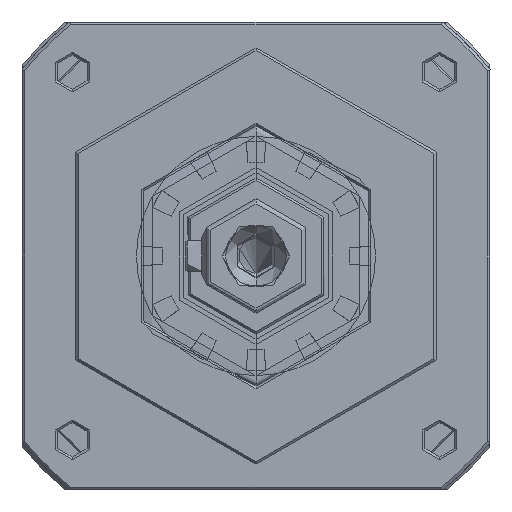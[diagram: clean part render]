
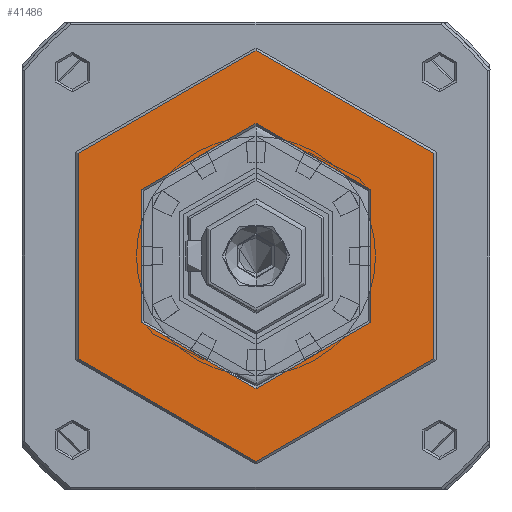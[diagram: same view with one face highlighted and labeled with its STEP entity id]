
A CAD part, left-side view. The second image highlights one B-rep face of the part: STEP entity #41486.
In plain terms, the highlighted planar face has unit normal (-1, 0, 0).
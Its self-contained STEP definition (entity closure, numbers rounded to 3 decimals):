
#2680 = AXIS2_PLACEMENT_3D ( 'NONE', #70262, #55734, #93404 ) ;
#6411 = AXIS2_PLACEMENT_3D ( 'NONE', #31897, #15764, #24003 ) ;
#7102 = VERTEX_POINT ( 'NONE', #33791 ) ;
#9949 = PLANE ( 'NONE',  #2680 ) ;
#10019 = ORIENTED_EDGE ( 'NONE', *, *, #86071, .F. ) ;
#15176 = ORIENTED_EDGE ( 'NONE', *, *, #41748, .T. ) ;
#15764 = DIRECTION ( 'NONE',  ( -1., 0., 0. ) ) ;
#18557 = CIRCLE ( 'NONE', #55657, 39.5 ) ;
#20832 = DIRECTION ( 'NONE',  ( 0., 0., 1. ) ) ;
#24003 = DIRECTION ( 'NONE',  ( 0., 0., 1. ) ) ;
#26400 = CARTESIAN_POINT ( 'NONE',  ( 0., 0., 0. ) ) ;
#26920 = ORIENTED_EDGE ( 'NONE', *, *, #54317, .F. ) ;
#29405 = EDGE_CURVE ( 'NONE', #91295, #47778, #18557, .T. ) ;
#31897 = CARTESIAN_POINT ( 'NONE',  ( 0., 0., 0. ) ) ;
#33791 = CARTESIAN_POINT ( 'NONE',  ( 0., 0., 25.5 ) ) ;
#38419 = EDGE_LOOP ( 'NONE', ( #10019, #26920 ) ) ;
#41486 = ADVANCED_FACE ( 'NONE', ( #57603, #43401 ), #9949, .F. ) ;
#41748 = EDGE_CURVE ( 'NONE', #47778, #91295, #62234, .T. ) ;
#42400 = ORIENTED_EDGE ( 'NONE', *, *, #29405, .T. ) ;
#43401 = FACE_OUTER_BOUND ( 'NONE', #44882, .T. ) ;
#44882 = EDGE_LOOP ( 'NONE', ( #15176, #42400 ) ) ;
#47778 = VERTEX_POINT ( 'NONE', #85457 ) ;
#52047 = CARTESIAN_POINT ( 'NONE',  ( 0., 0., 0. ) ) ;
#54317 = EDGE_CURVE ( 'NONE', #64304, #7102, #93829, .T. ) ;
#55657 = AXIS2_PLACEMENT_3D ( 'NONE', #26400, #63703, #57431 ) ;
#55734 = DIRECTION ( 'NONE',  ( 1., 0., 0. ) ) ;
#57431 = DIRECTION ( 'NONE',  ( 0., 0., -1. ) ) ;
#57603 = FACE_BOUND ( 'NONE', #38419, .T. ) ;
#59083 = DIRECTION ( 'NONE',  ( -1., 0., 0. ) ) ;
#59969 = CIRCLE ( 'NONE', #69488, 25.5 ) ;
#62234 = CIRCLE ( 'NONE', #65197, 39.5 ) ;
#63703 = DIRECTION ( 'NONE',  ( -1., 0., 0. ) ) ;
#64304 = VERTEX_POINT ( 'NONE', #87606 ) ;
#65197 = AXIS2_PLACEMENT_3D ( 'NONE', #52047, #66899, #89068 ) ;
#66899 = DIRECTION ( 'NONE',  ( -1., 0., 0. ) ) ;
#69488 = AXIS2_PLACEMENT_3D ( 'NONE', #82199, #59083, #20832 ) ;
#70262 = CARTESIAN_POINT ( 'NONE',  ( 0., -39.974, 39.974 ) ) ;
#78895 = CARTESIAN_POINT ( 'NONE',  ( 0., 0., 39.5 ) ) ;
#82199 = CARTESIAN_POINT ( 'NONE',  ( 0., 0., 0. ) ) ;
#85457 = CARTESIAN_POINT ( 'NONE',  ( 0., 0., -39.5 ) ) ;
#86071 = EDGE_CURVE ( 'NONE', #7102, #64304, #59969, .T. ) ;
#87606 = CARTESIAN_POINT ( 'NONE',  ( 0., 0., -25.5 ) ) ;
#89068 = DIRECTION ( 'NONE',  ( 0., 0., -1. ) ) ;
#91295 = VERTEX_POINT ( 'NONE', #78895 ) ;
#93404 = DIRECTION ( 'NONE',  ( 0., 0., -1. ) ) ;
#93829 = CIRCLE ( 'NONE', #6411, 25.5 ) ;
